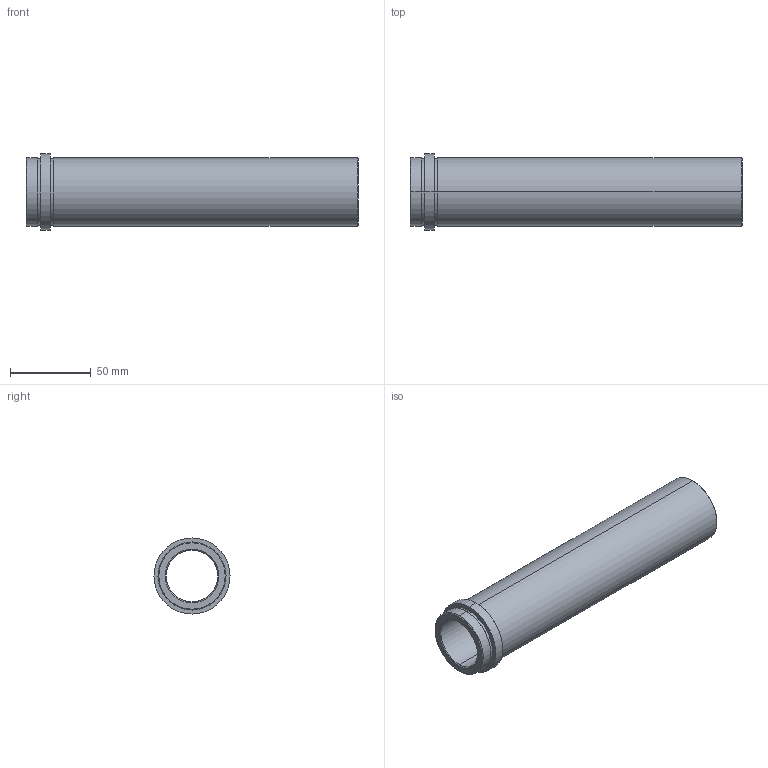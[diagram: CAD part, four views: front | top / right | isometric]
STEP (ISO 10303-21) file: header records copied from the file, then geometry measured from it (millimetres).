
FILE_DESCRIPTION( ( 'STEP AP203' ), '1' );
FILE_NAME( 'C:/Projects/D21 - 32x196.step', '2002-12-31T22:52:38', ( ' ' ), ( ' ' ), 'XStep 1.0', ' ', ' ' );
FILE_SCHEMA( ( 'CONFIG_CONTROL_DESIGN' ) );
Length unit declared in the file: metre
Products named in the file (1): 1
Bounding box: 205 x 47 x 47 mm (x, y, z)
Volume: 120923 mm3; surface area: 49725.6 mm2
Topology: 1 solids, 1 shells, 26 faces, 52 edges, 32 vertices
Faces by surface type: revolution 20, bspline 6
Entity records: 773 total; most frequent: CARTESIAN_POINT 169, DIRECTION 106, ORIENTED_EDGE 104, EDGE_CURVE 52, AXIS2_PLACEMENT_3D 33, EDGE_LOOP 32, VERTEX_POINT 32, CIRCLE 32
